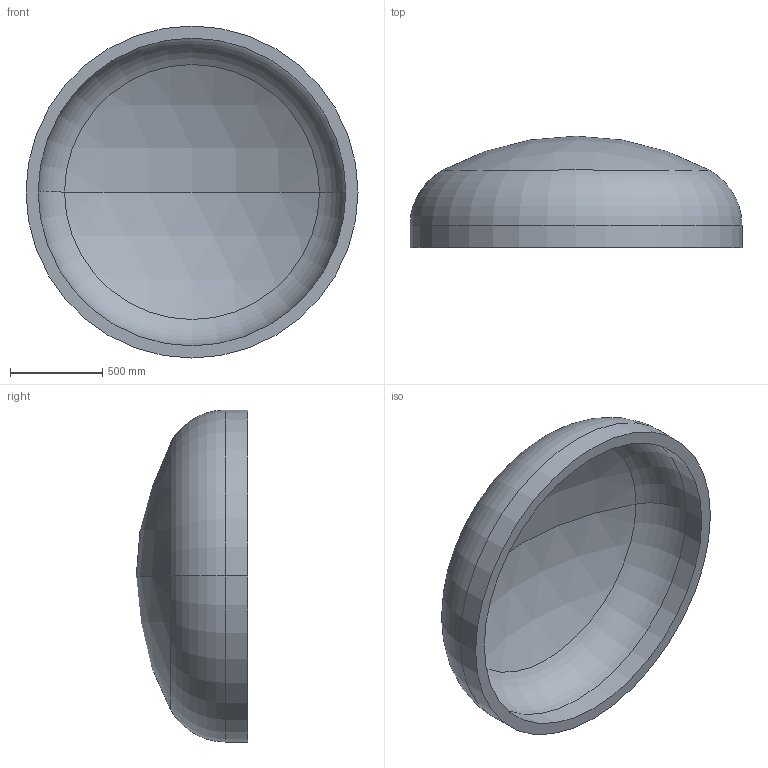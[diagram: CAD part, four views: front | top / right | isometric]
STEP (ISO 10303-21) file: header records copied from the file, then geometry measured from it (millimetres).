
FILE_DESCRIPTION (( 'STEP AP203' ), '1' );
FILE_NAME ('DIN 28013 Korbbogenform_-_Boden DIN 28013 - 1800 x 120 - I - s=66.step', '2016-07-01T12:37:18', ( '' ), ( '' ), 'SwSTEP 2.0', 'SolidWorks 2013', '' );
FILE_SCHEMA (( 'CONFIG_CONTROL_DESIGN' ));
Length unit declared in the file: millimetre
Products named in the file (1): DIN 28013 Korbbogenform_-_Boden DIN 28013 - 1800 x 120 - I - s=66
Bounding box: 1800 x 603.87 x 1800 mm (x, y, z)
Volume: 264574587.8 mm3; surface area: 8386069.1 mm2
Topology: 1 solids, 1 shells, 13 faces, 24 edges, 14 vertices
Faces by surface type: torus 4, cylinder 4, sphere 4, plane 1
Entity records: 407 total; most frequent: DIRECTION 72, CARTESIAN_POINT 52, ORIENTED_EDGE 48, AXIS2_PLACEMENT_3D 34, EDGE_CURVE 24, CIRCLE 20, VERTEX_POINT 14, EDGE_LOOP 14
